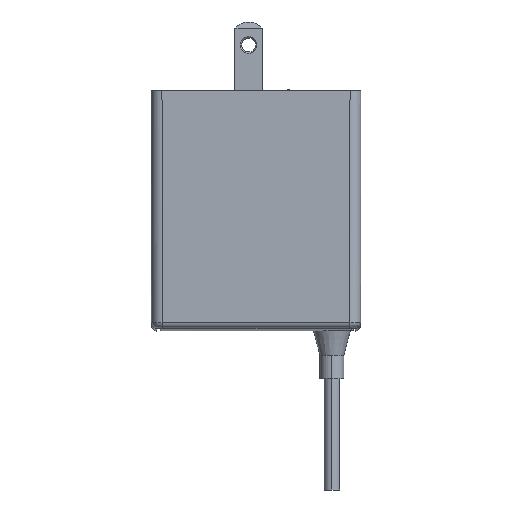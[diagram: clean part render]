
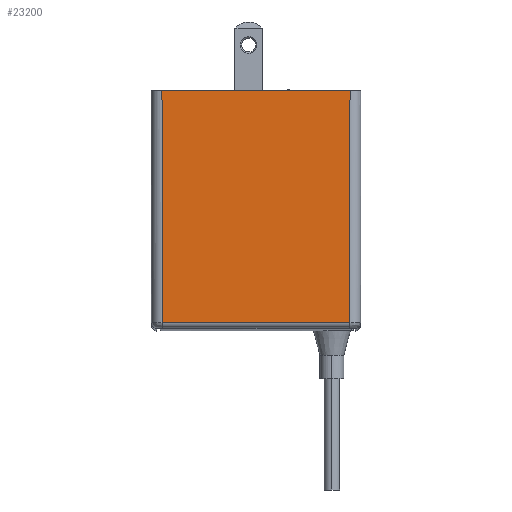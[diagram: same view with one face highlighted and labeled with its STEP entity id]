
A CAD part, left-side view. The second image highlights one B-rep face of the part: STEP entity #23200.
In plain terms, the highlighted planar face has unit normal (-1, 0, -0.002).
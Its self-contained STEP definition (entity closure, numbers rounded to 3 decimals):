
#19120=CARTESIAN_POINT('',(-40.171,11.392,
0.));
#19130=VERTEX_POINT('',#19120);
#19160=CARTESIAN_POINT('',(-40.171,54.608,
0.));
#19170=DIRECTION('',(0.,-1.,0.));
#19180=VECTOR('',#19170,1.);
#19190=LINE('',#19160,#19180);
#19200=CARTESIAN_POINT('',(-40.171,54.608,
0.));
#19210=VERTEX_POINT('',#19200);
#19220=EDGE_CURVE('',#19210,#19130,#19190,.T.);
#22770=CARTESIAN_POINT('',(-40.077,11.486,
-53.331));
#22780=VERTEX_POINT('',#22770);
#22810=CARTESIAN_POINT('',(-40.077,11.486,
-53.331));
#22820=DIRECTION('',(-0.002,-0.002,
1.));
#22830=VECTOR('',#22820,1.);
#22840=LINE('',#22810,#22830);
#22850=EDGE_CURVE('',#22780,#19130,#22840,.T.);
#22970=CARTESIAN_POINT('',(-40.171,33.,
0.));
#22980=DIRECTION('',(-1.,0.,
-0.002));
#22990=DIRECTION('',(-0.002,0.,1.));
#23000=AXIS2_PLACEMENT_3D('',#22970,#22980,#22990);
#23010=PLANE('',#23000);
#23020=ORIENTED_EDGE('',*,*,#19220,.F.);
#23030=ORIENTED_EDGE('',*,*,#22850,.T.);
#23040=CARTESIAN_POINT('',(-40.077,11.486,
-53.331));
#23050=DIRECTION('',(0.,1.,0.));
#23060=VECTOR('',#23050,1.);
#23070=LINE('',#23040,#23060);
#23080=CARTESIAN_POINT('',(-40.077,54.514,
-53.331));
#23090=VERTEX_POINT('',#23080);
#23100=EDGE_CURVE('',#22780,#23090,#23070,.T.);
#23110=ORIENTED_EDGE('',*,*,#23100,.F.);
#23120=CARTESIAN_POINT('',(-40.171,54.608,
0.));
#23130=DIRECTION('',(0.002,-0.002,
-1.));
#23140=VECTOR('',#23130,1.);
#23150=LINE('',#23120,#23140);
#23160=EDGE_CURVE('',#19210,#23090,#23150,.T.);
#23170=ORIENTED_EDGE('',*,*,#23160,.T.);
#23180=EDGE_LOOP('',(#23170,#23110,#23030,#23020));
#23190=FACE_OUTER_BOUND('',#23180,.T.);
#23200=ADVANCED_FACE('',(#23190),#23010,.T.);
